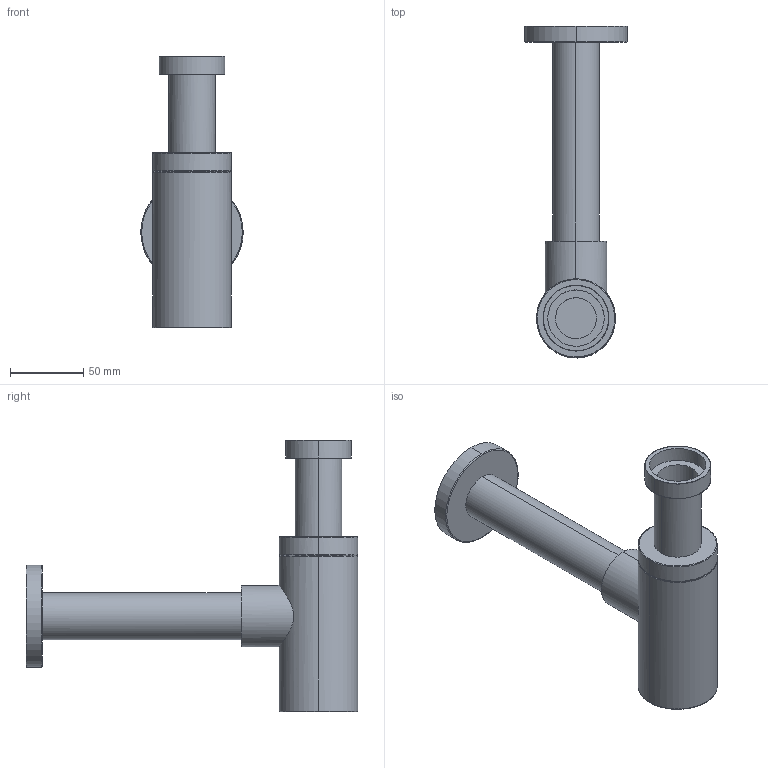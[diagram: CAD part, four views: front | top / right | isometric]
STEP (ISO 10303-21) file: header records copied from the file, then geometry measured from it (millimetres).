
FILE_DESCRIPTION(/* description */ (''),/* implementation_level */ '2;1');
FILE_NAME(/* name */ 'STSIFBACC',/* time_stamp */ '2025-04-09T12:28:37+02:00',/* author */ (''),/* organization */ (''),/* preprocessor_version */ 'ST-DEVELOPER v16.5',/* originating_system */ 'Rhino 7.38',/* authorisation */ '');
FILE_SCHEMA (('CONFIG_CONTROL_DESIGN'));
Length unit declared in the file: millimetre
Products named in the file (1): Document
Bounding box: 69.99 x 226.99 x 186 mm (x, y, z)
Volume: 491007.1 mm3; surface area: 64586.8 mm2
Topology: 1 solids, 1 shells, 41 faces, 80 edges, 48 vertices
Faces by surface type: cylinder 18, bspline 14, plane 9
Entity records: 1367 total; most frequent: CARTESIAN_POINT 767, ORIENTED_EDGE 160, EDGE_CURVE 80, EDGE_LOOP 48, VERTEX_POINT 48, ADVANCED_FACE 41, FACE_OUTER_BOUND 41, DIRECTION 31
